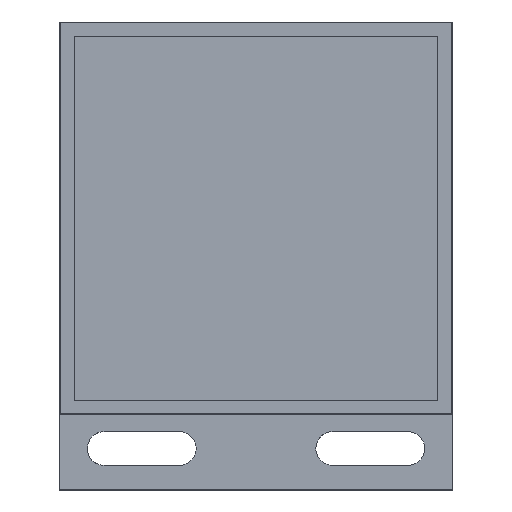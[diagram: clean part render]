
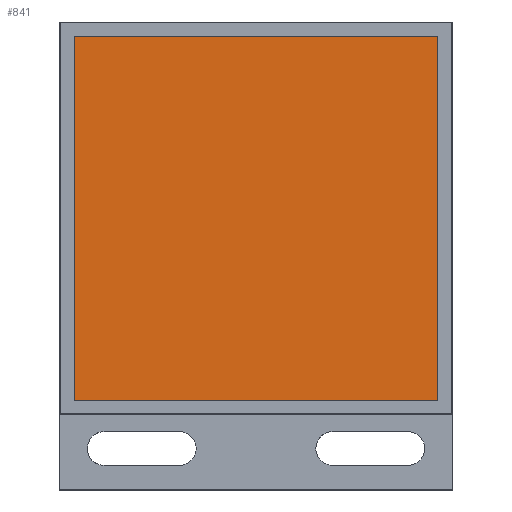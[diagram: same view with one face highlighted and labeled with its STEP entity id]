
A CAD part, top view. The second image highlights one B-rep face of the part: STEP entity #841.
In plain terms, the highlighted free-form (B-spline) face has degree [1, 1] with [2, 2] control points.
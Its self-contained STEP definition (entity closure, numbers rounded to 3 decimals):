
#748=CARTESIAN_POINT('',(-23.7,-18.8,7.925));
#749=VERTEX_POINT('',#748);
#755=CARTESIAN_POINT('',(-23.7,28.6,7.925));
#756=VERTEX_POINT('',#755);
#757=CARTESIAN_POINT('',(-23.7,-18.8,7.925));
#758=CARTESIAN_POINT('',(-23.7,28.6,7.925));
#759=B_SPLINE_CURVE_WITH_KNOTS('',1,(#757,#758),.POLYLINE_FORM.,.F.,.U.,(2,2),(0.,1.),.UNSPECIFIED.);
#760=EDGE_CURVE('',#749,#756,#759,.T.);
#777=CARTESIAN_POINT('',(23.7,28.6,7.925));
#778=VERTEX_POINT('',#777);
#779=CARTESIAN_POINT('',(-23.7,28.6,7.925));
#780=CARTESIAN_POINT('',(23.7,28.6,7.925));
#781=B_SPLINE_CURVE_WITH_KNOTS('',1,(#779,#780),.POLYLINE_FORM.,.F.,.U.,(2,2),(0.,1.),.UNSPECIFIED.);
#782=EDGE_CURVE('',#756,#778,#781,.T.);
#799=CARTESIAN_POINT('',(23.7,-18.8,7.925));
#800=VERTEX_POINT('',#799);
#801=CARTESIAN_POINT('',(23.7,28.6,7.925));
#802=CARTESIAN_POINT('',(23.7,-18.8,7.925));
#803=B_SPLINE_CURVE_WITH_KNOTS('',1,(#801,#802),.POLYLINE_FORM.,.F.,.U.,(2,2),(0.,1.),.UNSPECIFIED.);
#804=EDGE_CURVE('',#778,#800,#803,.T.);
#821=CARTESIAN_POINT('',(23.7,-18.8,7.925));
#822=CARTESIAN_POINT('',(-23.7,-18.8,7.925));
#823=B_SPLINE_CURVE_WITH_KNOTS('',1,(#821,#822),.POLYLINE_FORM.,.F.,.U.,(2,2),(0.,1.),.UNSPECIFIED.);
#824=EDGE_CURVE('',#800,#749,#823,.T.);
#830=CARTESIAN_POINT('',(-124.251,-119.351,7.925));
#831=CARTESIAN_POINT('',(-124.251,81.751,7.925));
#832=CARTESIAN_POINT('',(76.851,-119.351,7.925));
#833=CARTESIAN_POINT('',(76.851,81.751,7.925));
#834=B_SPLINE_SURFACE_WITH_KNOTS('',1,1,((#830,#831),(#832,#833)),.PLANE_SURF.,.F.,.F.,.U.,(2,2),(2,2),(0.,1.),(0.,1.),.UNSPECIFIED.);
#835=ORIENTED_EDGE('',*,*,#760,.F.);
#836=ORIENTED_EDGE('',*,*,#824,.F.);
#837=ORIENTED_EDGE('',*,*,#804,.F.);
#838=ORIENTED_EDGE('',*,*,#782,.F.);
#839=EDGE_LOOP('',(#835,#836,#837,#838));
#840=FACE_OUTER_BOUND('',#839,.T.);
#841=ADVANCED_FACE('',(#840),#834,.T.);
